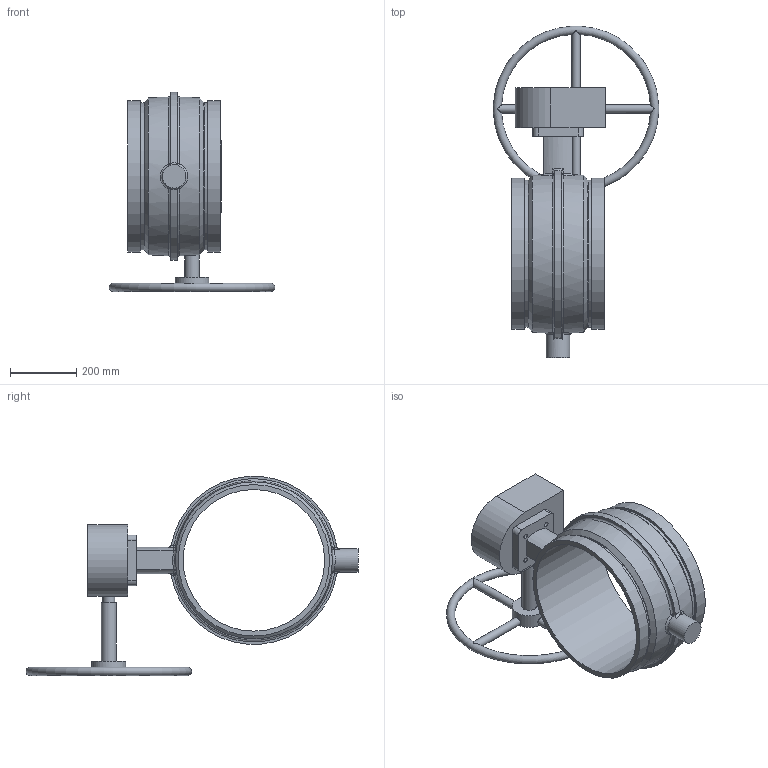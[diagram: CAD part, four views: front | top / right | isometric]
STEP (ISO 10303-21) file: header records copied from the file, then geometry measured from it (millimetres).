
FILE_DESCRIPTION(/* description */ ('VIC AGS VALVE BUTTERFLY VIC-300 MS GO SERIES W761 (AGS)'),/* implementation_level */ '2;1');
FILE_NAME(/* name */ 'C:\Files for Export\W761\STEP\Victaulic_IPS-AGS_Vlv Btfl Vic-300 MS GO_Series W761 (AGS)\Victaulic_IPS-AGS_Vlv Btfl Vic-300 MS GO_Series W761 (AGS)_18 (450).stp',/* time_stamp */ '2024-08-27T14:19:32+02:00',/* author */ ('jheald'),/* organization */ ('Victaulic'),/* preprocessor_version */ 'ST-DEVELOPER v18.1',/* originating_system */ 'Autodesk Inventor 2020',/* authorisation */ '');
FILE_SCHEMA (('AUTOMOTIVE_DESIGN { 1 0 10303 214 3 1 1 }'));
Length unit declared in the file: inch
Products named in the file (1): W761-18.0
Bounding box: 500.13 x 1002.66 x 601.32 mm (x, y, z)
Volume: 18209979.2 mm3; surface area: 1391962.9 mm2
Topology: 1 solids, 1 shells, 95 faces, 268 edges, 178 vertices
Faces by surface type: cylinder 34, plane 28, torus 11, bspline 10, sphere 8, cone 4
Full cylindrical faces by diameter (mm): 14.681 x4, 24.994 x4, 35.56 x1, 44.45 x1, 71.12 x1, 101.6 x1, 427.609 x1, 444.5 x2, 457.2 x2
Entity records: 4075 total; most frequent: CARTESIAN_POINT 1510, ORIENTED_EDGE 538, DIRECTION 480, EDGE_CURVE 269, AXIS2_PLACEMENT_3D 205, VERTEX_POINT 179, CIRCLE 119, EDGE_LOOP 108
